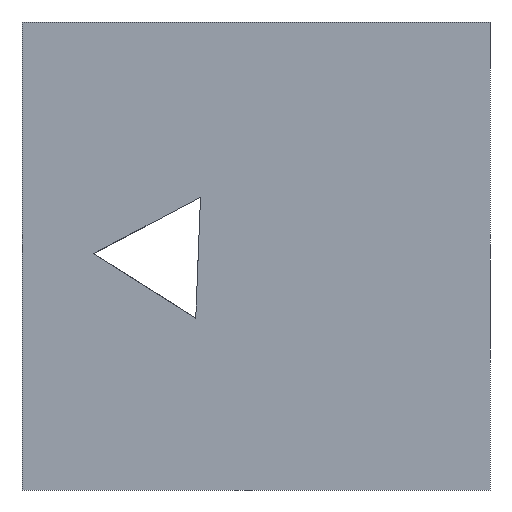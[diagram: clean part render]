
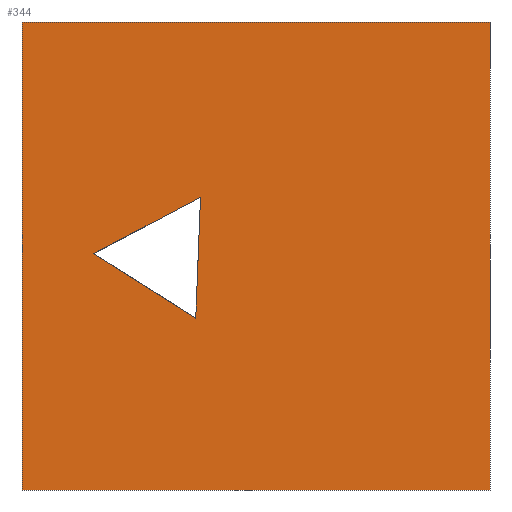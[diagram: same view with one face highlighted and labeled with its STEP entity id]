
A CAD part, front view. The second image highlights one B-rep face of the part: STEP entity #344.
In plain terms, the highlighted planar face has unit normal (0, -1, 0).
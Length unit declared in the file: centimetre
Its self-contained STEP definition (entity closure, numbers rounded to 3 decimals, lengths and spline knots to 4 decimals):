
#13 = FACE_BOUND ( 'NONE', #180, .T. ) ;
#38 = EDGE_CURVE ( 'NONE', #352, #718, #425, .T. ) ;
#39 = EDGE_CURVE ( 'NONE', #633, #434, #769, .T. ) ;
#62 = CARTESIAN_POINT ( 'NONE',  ( 1000., 0., 0. ) ) ;
#75 = CARTESIAN_POINT ( 'NONE',  ( 0., 0., 0. ) ) ;
#82 = CARTESIAN_POINT ( 'NONE',  ( 381.3604, 0., 625.4044 ) ) ;
#93 = VERTEX_POINT ( 'NONE', #306 ) ;
#94 = CARTESIAN_POINT ( 'NONE',  ( 371.2913, 0., 367.3446 ) ) ;
#124 = VERTEX_POINT ( 'NONE', #94 ) ;
#133 = DIRECTION ( 'NONE',  ( 1., 0., 0. ) ) ;
#167 = VECTOR ( 'NONE', #731, 100. ) ;
#174 = CARTESIAN_POINT ( 'NONE',  ( 152.8395, 0., 505.0946 ) ) ;
#180 = EDGE_LOOP ( 'NONE', ( #826, #291, #262 ) ) ;
#192 = DIRECTION ( 'NONE',  ( 0., 0., -1. ) ) ;
#202 = EDGE_LOOP ( 'NONE', ( #847, #783, #533, #271 ) ) ;
#214 = CARTESIAN_POINT ( 'NONE',  ( 1000., 0., 1000. ) ) ;
#229 = VECTOR ( 'NONE', #706, 100. ) ;
#247 = LINE ( 'NONE', #527, #167 ) ;
#256 = FACE_OUTER_BOUND ( 'NONE', #202, .T. ) ;
#262 = ORIENTED_EDGE ( 'NONE', *, *, #38, .T. ) ;
#270 = CARTESIAN_POINT ( 'NONE',  ( 0., 0., 1000. ) ) ;
#271 = ORIENTED_EDGE ( 'NONE', *, *, #575, .T. ) ;
#283 = VECTOR ( 'NONE', #133, 100. ) ;
#289 = CARTESIAN_POINT ( 'NONE',  ( 381.3604, 0., 625.4044 ) ) ;
#291 = ORIENTED_EDGE ( 'NONE', *, *, #379, .T. ) ;
#296 = DIRECTION ( 'NONE',  ( 0., 0., 1. ) ) ;
#306 = CARTESIAN_POINT ( 'NONE',  ( 0., 0., 1000. ) ) ;
#344 = ADVANCED_FACE ( 'NONE', ( #13, #256 ), #538, .F. ) ;
#352 = VERTEX_POINT ( 'NONE', #174 ) ;
#369 = AXIS2_PLACEMENT_3D ( 'NONE', #670, #583, #296 ) ;
#379 = EDGE_CURVE ( 'NONE', #124, #352, #247, .T. ) ;
#425 = LINE ( 'NONE', #82, #229 ) ;
#426 = VECTOR ( 'NONE', #504, 100. ) ;
#433 = EDGE_CURVE ( 'NONE', #93, #811, #764, .T. ) ;
#434 = VERTEX_POINT ( 'NONE', #62 ) ;
#457 = VECTOR ( 'NONE', #192, 100. ) ;
#496 = EDGE_CURVE ( 'NONE', #718, #124, #721, .T. ) ;
#504 = DIRECTION ( 'NONE',  ( 1., 0., 0. ) ) ;
#521 = LINE ( 'NONE', #680, #457 ) ;
#527 = CARTESIAN_POINT ( 'NONE',  ( 152.8395, 0., 505.0946 ) ) ;
#530 = CARTESIAN_POINT ( 'NONE',  ( 371.2913, 0., 367.3446 ) ) ;
#533 = ORIENTED_EDGE ( 'NONE', *, *, #433, .F. ) ;
#538 = PLANE ( 'NONE',  #369 ) ;
#561 = VECTOR ( 'NONE', #768, 100. ) ;
#575 = EDGE_CURVE ( 'NONE', #93, #633, #521, .T. ) ;
#583 = DIRECTION ( 'NONE',  ( 0., 1., 0. ) ) ;
#633 = VERTEX_POINT ( 'NONE', #666 ) ;
#652 = EDGE_CURVE ( 'NONE', #811, #434, #700, .T. ) ;
#666 = CARTESIAN_POINT ( 'NONE',  ( 0., 0., 0. ) ) ;
#670 = CARTESIAN_POINT ( 'NONE',  ( 0., 0., 1000. ) ) ;
#680 = CARTESIAN_POINT ( 'NONE',  ( 0., 0., 1000. ) ) ;
#700 = LINE ( 'NONE', #214, #561 ) ;
#706 = DIRECTION ( 'NONE',  ( 0.885, 0., 0.466 ) ) ;
#718 = VERTEX_POINT ( 'NONE', #289 ) ;
#721 = LINE ( 'NONE', #530, #770 ) ;
#731 = DIRECTION ( 'NONE',  ( -0.846, 0., 0.533 ) ) ;
#764 = LINE ( 'NONE', #270, #283 ) ;
#768 = DIRECTION ( 'NONE',  ( 0., 0., -1. ) ) ;
#769 = LINE ( 'NONE', #75, #426 ) ;
#770 = VECTOR ( 'NONE', #797, 100. ) ;
#783 = ORIENTED_EDGE ( 'NONE', *, *, #652, .F. ) ;
#797 = DIRECTION ( 'NONE',  ( -0.039, 0., -0.999 ) ) ;
#811 = VERTEX_POINT ( 'NONE', #857 ) ;
#826 = ORIENTED_EDGE ( 'NONE', *, *, #496, .T. ) ;
#847 = ORIENTED_EDGE ( 'NONE', *, *, #39, .T. ) ;
#857 = CARTESIAN_POINT ( 'NONE',  ( 1000., 0., 1000. ) ) ;
